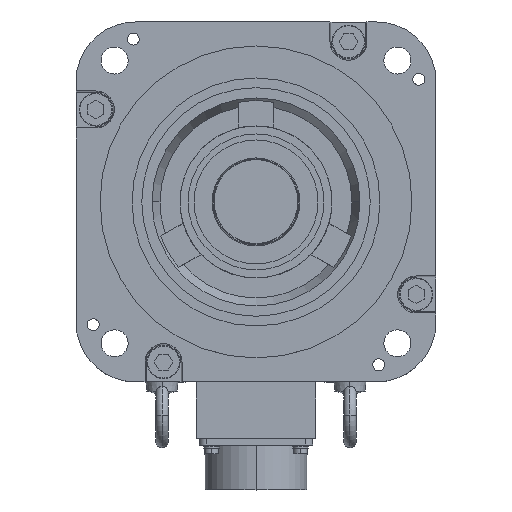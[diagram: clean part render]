
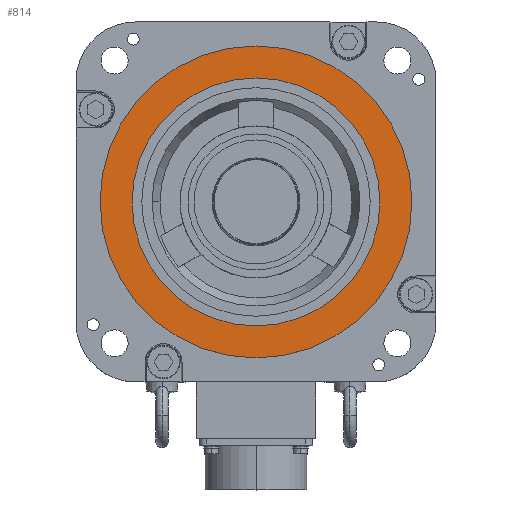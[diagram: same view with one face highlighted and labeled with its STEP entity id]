
A CAD part, top view. The second image highlights one B-rep face of the part: STEP entity #814.
In plain terms, the highlighted planar face has unit normal (0, 0, 1).
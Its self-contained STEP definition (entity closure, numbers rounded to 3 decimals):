
#44 = VERTEX_POINT ( 'NONE', #21910 ) ;
#335 = ORIENTED_EDGE ( 'NONE', *, *, #33820, .F. ) ;
#382 = ORIENTED_EDGE ( 'NONE', *, *, #384, .F. ) ;
#384 = EDGE_CURVE ( 'NONE', #44, #33825, #22392, .T. ) ;
#419 = EDGE_LOOP ( 'NONE', ( #382, #335 ) ) ;
#473 = ORIENTED_EDGE ( 'NONE', *, *, #33900, .T. ) ;
#494 = EDGE_CURVE ( 'NONE', #33882, #33889, #24011, .T. ) ;
#507 = ORIENTED_EDGE ( 'NONE', *, *, #494, .T. ) ;
#513 = EDGE_LOOP ( 'NONE', ( #507, #473 ) ) ;
#814 = ADVANCED_FACE ( 'NONE', ( #24656, #24655 ), #24654, .T. ) ;
#17977 = DIRECTION ( 'NONE',  ( 1., 0., 0. ) ) ;
#17978 = DIRECTION ( 'NONE',  ( 0., 0., 1. ) ) ;
#17979 = CARTESIAN_POINT ( 'NONE',  ( 0., 0., -0.5 ) ) ;
#17980 = AXIS2_PLACEMENT_3D ( 'NONE', #17979, #17978, #17977 ) ;
#17981 = CIRCLE ( 'NONE', #17980, 62. ) ;
#18037 = CARTESIAN_POINT ( 'NONE',  ( 62., 0., -0.5 ) ) ;
#18098 = CARTESIAN_POINT ( 'NONE',  ( 78., 0., -0.5 ) ) ;
#18119 = DIRECTION ( 'NONE',  ( 1., 0., 0. ) ) ;
#18120 = DIRECTION ( 'NONE',  ( 0., 0., 1. ) ) ;
#18121 = CARTESIAN_POINT ( 'NONE',  ( 0., 0., -0.5 ) ) ;
#18122 = AXIS2_PLACEMENT_3D ( 'NONE', #18121, #18120, #18119 ) ;
#18123 = CIRCLE ( 'NONE', #18122, 78. ) ;
#18139 = CARTESIAN_POINT ( 'NONE',  ( -78., 0., -0.5 ) ) ;
#21910 = CARTESIAN_POINT ( 'NONE',  ( -62., 0., -0.5 ) ) ;
#22392 = CIRCLE ( 'NONE', #22463, 62. ) ;
#22397 = CARTESIAN_POINT ( 'NONE',  ( 0., 0., -0.5 ) ) ;
#22460 = DIRECTION ( 'NONE',  ( 1., 0., 0. ) ) ;
#22462 = DIRECTION ( 'NONE',  ( 0., 0., 1. ) ) ;
#22463 = AXIS2_PLACEMENT_3D ( 'NONE', #22397, #22462, #22460 ) ;
#24011 = CIRCLE ( 'NONE', #24080, 78. ) ;
#24076 = DIRECTION ( 'NONE',  ( 1., 0., 0. ) ) ;
#24077 = DIRECTION ( 'NONE',  ( 0., 0., 1. ) ) ;
#24079 = CARTESIAN_POINT ( 'NONE',  ( 0., 0., -0.5 ) ) ;
#24080 = AXIS2_PLACEMENT_3D ( 'NONE', #24079, #24077, #24076 ) ;
#24649 = DIRECTION ( 'NONE',  ( 1., 0., 0. ) ) ;
#24650 = DIRECTION ( 'NONE',  ( 0., 0., 1. ) ) ;
#24652 = CARTESIAN_POINT ( 'NONE',  ( 0., 0., -0.5 ) ) ;
#24653 = AXIS2_PLACEMENT_3D ( 'NONE', #24652, #24650, #24649 ) ;
#24654 = PLANE ( 'NONE',  #24653 ) ;
#24655 = FACE_BOUND ( 'NONE', #419, .T. ) ;
#24656 = FACE_OUTER_BOUND ( 'NONE', #513, .T. ) ;
#33820 = EDGE_CURVE ( 'NONE', #33825, #44, #17981, .T. ) ;
#33825 = VERTEX_POINT ( 'NONE', #18037 ) ;
#33882 = VERTEX_POINT ( 'NONE', #18098 ) ;
#33889 = VERTEX_POINT ( 'NONE', #18139 ) ;
#33900 = EDGE_CURVE ( 'NONE', #33889, #33882, #18123, .T. ) ;
